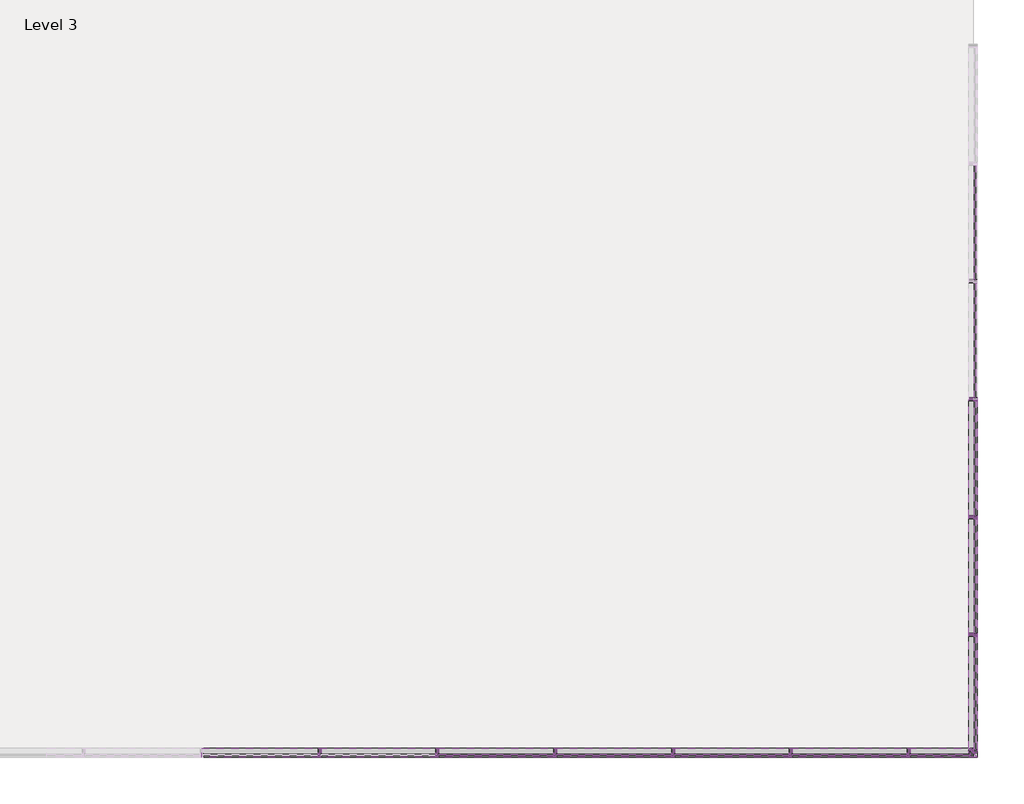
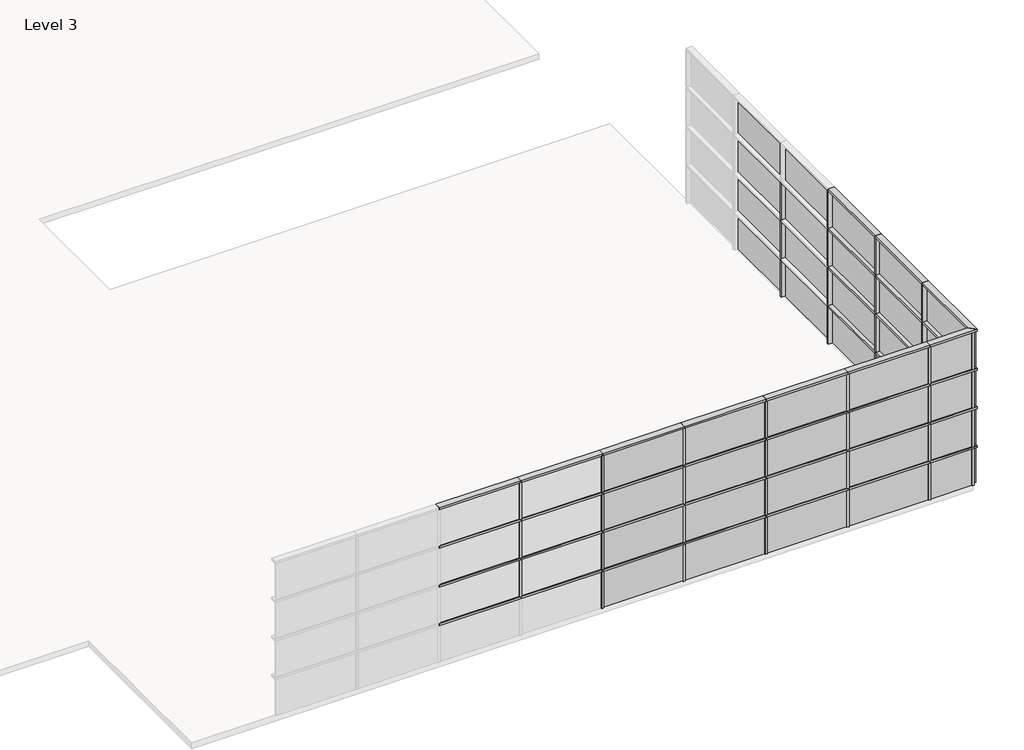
# One storey, part 3 of 6: 86 members, 40 plates.
"""IFC4 building model written with IfcOpenShell, lengths in millimetres."""

from ifc_helpers import new_model, si_unit, origin, place, context, project, spatial, transform, mapped, element, save
from components import rectangular_mullion_50_x_150mm_a053b0ca, rectangular_mullion_50_x_150mm_3a148f0f, rectangular_mullion_50_x_150mm_12a430f9, rectangular_mullion_50_x_150mm_947845bb, rectangular_mullion_50_x_150mm_f68fa77e, system_panel_glazed_751a585c, system_panel_glazed_08de6f5f, system_panel_glazed_3987acf4

model = new_model("IFC4")

# Units and contexts
model_context = context("Model", 3, world=origin())
ifc_project = project(units=[si_unit("LENGTHUNIT", "METRE", prefix="MILLI")], contexts=[model_context])

# Site, building, storey
site = spatial("IfcSite", under=ifc_project)
building = spatial("IfcBuilding", under=site)
storey = spatial("IfcBuildingStorey", under=building, Name="Level 3", Elevation=8000.0)

# Members
placement = place(None, origin())
rectangular_mullion_50_x_150mm_shape = rectangular_mullion_50_x_150mm_a053b0ca(model_context)
element("IfcMember", 1, ObjectType="Rectangular Mullion : 50 x 150mm", at=placement, inside=storey, context=model_context, shape_type="MappedRepresentation", body=[
    mapped(rectangular_mullion_50_x_150mm_shape, transform((2412.826594, -21988.7417365, 9025.0), x_axis=(1.0, 0.0, 0.0), y_axis=(0.0, -1.0, 0.0), z_axis=(0.0, 0.0, -0.9999999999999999))),
])
element("IfcMember", 2, ObjectType="Rectangular Mullion : 50 x 150mm", at=placement, inside=storey, context=model_context, shape_type="MappedRepresentation", body=[
    mapped(rectangular_mullion_50_x_150mm_shape, transform((2412.826594, -21988.7417365, 10025.0), x_axis=(1.0, 0.0, 0.0), y_axis=(0.0, -1.0, 0.0), z_axis=(0.0, 0.0, -1.0))),
])
element("IfcMember", 3, ObjectType="Rectangular Mullion : 50 x 150mm", at=placement, inside=storey, context=model_context, shape_type="MappedRepresentation", body=[
    mapped(rectangular_mullion_50_x_150mm_shape, transform((2412.826594, -21988.7417365, 11025.0), x_axis=(1.0, 0.0, 0.0), y_axis=(0.0, -1.0, 0.0), z_axis=(0.0, 0.0, -1.0))),
])
element("IfcMember", 4, ObjectType="Rectangular Mullion : 50 x 150mm", at=placement, inside=storey, context=model_context, shape_type="MappedRepresentation", body=[
    mapped(rectangular_mullion_50_x_150mm_shape, transform((4412.826594, -21988.7417365, 8025.0), x_axis=(1.0, 0.0, 0.0), y_axis=(0.0, -1.0, 0.0), z_axis=(0.0, 0.0, -1.0))),
])
element("IfcMember", 5, ObjectType="Rectangular Mullion : 50 x 150mm", at=placement, inside=storey, context=model_context, shape_type="MappedRepresentation", body=[
    mapped(rectangular_mullion_50_x_150mm_shape, transform((4412.826594, -21988.7417365, 9025.0), x_axis=(1.0, 0.0, 0.0), y_axis=(0.0, -1.0, 0.0), z_axis=(0.0, 0.0, -0.9999999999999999))),
])
element("IfcMember", 6, ObjectType="Rectangular Mullion : 50 x 150mm", at=placement, inside=storey, context=model_context, shape_type="MappedRepresentation", body=[
    mapped(rectangular_mullion_50_x_150mm_shape, transform((4412.826594, -21988.7417365, 10025.0), x_axis=(1.0, 0.0, 0.0), y_axis=(0.0, -1.0, 0.0), z_axis=(0.0, 0.0, -0.9999999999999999))),
])
element("IfcMember", 7, ObjectType="Rectangular Mullion : 50 x 150mm", at=placement, inside=storey, context=model_context, shape_type="MappedRepresentation", body=[
    mapped(rectangular_mullion_50_x_150mm_shape, transform((4412.826594, -21988.7417365, 11025.0), x_axis=(1.0, 0.0, 0.0), y_axis=(0.0, -1.0, 0.0), z_axis=(0.0, 0.0, -1.0))),
])
element("IfcMember", 8, ObjectType="Rectangular Mullion : 50 x 150mm", at=placement, inside=storey, context=model_context, shape_type="MappedRepresentation", body=[
    mapped(rectangular_mullion_50_x_150mm_shape, transform((6412.826594, -21988.7417365, 8025.0), x_axis=(1.0, 0.0, 0.0), y_axis=(0.0, -1.0, 0.0), z_axis=(0.0, 0.0, -1.0))),
])
element("IfcMember", 9, ObjectType="Rectangular Mullion : 50 x 150mm", at=placement, inside=storey, context=model_context, shape_type="MappedRepresentation", body=[
    mapped(rectangular_mullion_50_x_150mm_shape, transform((6412.826594, -21988.7417365, 9025.0), x_axis=(1.0, 0.0, 0.0), y_axis=(0.0, -1.0, 0.0), z_axis=(0.0, 0.0, -0.9999999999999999))),
])
element("IfcMember", 10, ObjectType="Rectangular Mullion : 50 x 150mm", at=placement, inside=storey, context=model_context, shape_type="MappedRepresentation", body=[
    mapped(rectangular_mullion_50_x_150mm_shape, transform((6412.826594, -21988.7417365, 10025.0), x_axis=(1.0, 0.0, 0.0), y_axis=(0.0, -1.0, 0.0), z_axis=(0.0, 0.0, -0.9999999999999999))),
])
element("IfcMember", 11, ObjectType="Rectangular Mullion : 50 x 150mm", at=placement, inside=storey, context=model_context, shape_type="MappedRepresentation", body=[
    mapped(rectangular_mullion_50_x_150mm_shape, transform((6412.826594, -21988.7417365, 11025.0), x_axis=(1.0, 0.0, 0.0), y_axis=(0.0, -1.0, 0.0), z_axis=(0.0, 0.0, -1.0))),
])
element("IfcMember", 12, ObjectType="Rectangular Mullion : 50 x 150mm", at=placement, inside=storey, context=model_context, shape_type="MappedRepresentation", body=[
    mapped(rectangular_mullion_50_x_150mm_shape, transform((8412.826594, -21988.7417365, 8025.0), x_axis=(1.0, 0.0, 0.0), y_axis=(0.0, -1.0, 0.0), z_axis=(0.0, 0.0, -1.0))),
])
element("IfcMember", 13, ObjectType="Rectangular Mullion : 50 x 150mm", at=placement, inside=storey, context=model_context, shape_type="MappedRepresentation", body=[
    mapped(rectangular_mullion_50_x_150mm_shape, transform((8412.826594, -21988.7417365, 9025.0), x_axis=(1.0, 0.0, 0.0), y_axis=(0.0, -1.0, 0.0), z_axis=(0.0, 0.0, -0.9999999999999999))),
])
element("IfcMember", 14, ObjectType="Rectangular Mullion : 50 x 150mm", at=placement, inside=storey, context=model_context, shape_type="MappedRepresentation", body=[
    mapped(rectangular_mullion_50_x_150mm_shape, transform((8412.826594, -21988.7417365, 10025.0), x_axis=(1.0, 0.0, 0.0), y_axis=(0.0, -1.0, 0.0), z_axis=(0.0, 0.0, -0.9999999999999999))),
])
element("IfcMember", 15, ObjectType="Rectangular Mullion : 50 x 150mm", at=placement, inside=storey, context=model_context, shape_type="MappedRepresentation", body=[
    mapped(rectangular_mullion_50_x_150mm_shape, transform((8412.826594, -21988.7417365, 11025.0), x_axis=(1.0, 0.0, 0.0), y_axis=(0.0, -1.0, 0.0), z_axis=(0.0, 0.0, -1.0))),
])
element("IfcMember", 16, ObjectType="Rectangular Mullion : 50 x 150mm", at=placement, inside=storey, context=model_context, shape_type="MappedRepresentation", body=[
    mapped(rectangular_mullion_50_x_150mm_shape, transform((10412.826594, -21988.7417365, 8025.0), x_axis=(1.0, 0.0, 0.0), y_axis=(0.0, -1.0, 0.0), z_axis=(0.0, 0.0, -1.0))),
])
element("IfcMember", 17, ObjectType="Rectangular Mullion : 50 x 150mm", at=placement, inside=storey, context=model_context, shape_type="MappedRepresentation", body=[
    mapped(rectangular_mullion_50_x_150mm_shape, transform((10412.826594, -21988.7417365, 9025.0), x_axis=(1.0, 0.0, 0.0), y_axis=(0.0, -1.0, 0.0), z_axis=(0.0, 0.0, -0.9999999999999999))),
])
element("IfcMember", 18, ObjectType="Rectangular Mullion : 50 x 150mm", at=placement, inside=storey, context=model_context, shape_type="MappedRepresentation", body=[
    mapped(rectangular_mullion_50_x_150mm_shape, transform((10412.826594, -21988.7417365, 10025.0), x_axis=(1.0, 0.0, 0.0), y_axis=(0.0, -1.0, 0.0), z_axis=(0.0, 0.0, -1.0))),
])
element("IfcMember", 19, ObjectType="Rectangular Mullion : 50 x 150mm", at=placement, inside=storey, context=model_context, shape_type="MappedRepresentation", body=[
    mapped(rectangular_mullion_50_x_150mm_shape, transform((10412.826594, -21988.7417365, 11025.0), x_axis=(1.0, 0.0, 0.0), y_axis=(0.0, -1.0, 0.0), z_axis=(0.0, 0.0, -1.0))),
])
element("IfcMember", 20, ObjectType="Rectangular Mullion : 50 x 150mm", at=placement, inside=storey, context=model_context, shape_type="MappedRepresentation", body=[
    mapped(rectangular_mullion_50_x_150mm_shape, transform((12412.826594, -21988.7417365, 8025.0), x_axis=(1.0, 0.0, 0.0), y_axis=(0.0, -1.0, 0.0), z_axis=(0.0, 0.0, -1.0))),
])
element("IfcMember", 21, ObjectType="Rectangular Mullion : 50 x 150mm", at=placement, inside=storey, context=model_context, shape_type="MappedRepresentation", body=[
    mapped(rectangular_mullion_50_x_150mm_shape, transform((12412.826594, -21988.7417365, 9025.0), x_axis=(1.0, 0.0, 0.0), y_axis=(0.0, -1.0, 0.0), z_axis=(0.0, 0.0, -0.9999999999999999))),
])
element("IfcMember", 22, ObjectType="Rectangular Mullion : 50 x 150mm", at=placement, inside=storey, context=model_context, shape_type="MappedRepresentation", body=[
    mapped(rectangular_mullion_50_x_150mm_shape, transform((12412.826594, -21988.7417365, 10025.0), x_axis=(1.0, 0.0, 0.0), y_axis=(0.0, -1.0, 0.0), z_axis=(0.0, 0.0, -1.0))),
])
element("IfcMember", 23, ObjectType="Rectangular Mullion : 50 x 150mm", at=placement, inside=storey, context=model_context, shape_type="MappedRepresentation", body=[
    mapped(rectangular_mullion_50_x_150mm_shape, transform((12412.826594, -21988.7417365, 11025.0), x_axis=(1.0, 0.0, 0.0), y_axis=(0.0, -1.0, 0.0), z_axis=(0.0, 0.0, -1.0))),
])
element("IfcMember", 24, ObjectType="Rectangular Mullion : 50 x 150mm", at=placement, inside=storey, context=model_context, shape_type="MappedRepresentation", body=[
    mapped(rectangular_mullion_50_x_150mm_shape, transform((13503.2660975, -13988.7417365, 8025.0), x_axis=(0.0, 1.0, 0.0), y_axis=(1.0, 0.0, 0.0), z_axis=(0.0, 0.0, -0.9999999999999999))),
])
element("IfcMember", 25, ObjectType="Rectangular Mullion : 50 x 150mm", at=placement, inside=storey, context=model_context, shape_type="MappedRepresentation", body=[
    mapped(rectangular_mullion_50_x_150mm_shape, transform((13503.2660975, -13988.7417365, 9025.0), x_axis=(0.0, 1.0, 0.0), y_axis=(1.0, 0.0, 0.0), z_axis=(0.0, 0.0, -1.0))),
])
element("IfcMember", 26, ObjectType="Rectangular Mullion : 50 x 150mm", at=placement, inside=storey, context=model_context, shape_type="MappedRepresentation", body=[
    mapped(rectangular_mullion_50_x_150mm_shape, transform((13503.2660975, -13988.7417365, 10025.0), x_axis=(0.0, 1.0, 0.0), y_axis=(1.0, 0.0, 0.0), z_axis=(0.0, 0.0, -1.0))),
])
element("IfcMember", 27, ObjectType="Rectangular Mullion : 50 x 150mm", at=placement, inside=storey, context=model_context, shape_type="MappedRepresentation", body=[
    mapped(rectangular_mullion_50_x_150mm_shape, transform((13503.2660975, -17988.7417365, 8025.0), x_axis=(0.0, 1.0, 0.0), y_axis=(1.0, 0.0, 0.0), z_axis=(0.0, 0.0, -1.0))),
])
element("IfcMember", 28, ObjectType="Rectangular Mullion : 50 x 150mm", at=placement, inside=storey, context=model_context, shape_type="MappedRepresentation", body=[
    mapped(rectangular_mullion_50_x_150mm_shape, transform((13503.2660975, -17988.7417365, 9025.0), x_axis=(0.0, 1.0, 0.0), y_axis=(1.0, 0.0, 0.0), z_axis=(0.0, 0.0, -1.0))),
])
element("IfcMember", 29, ObjectType="Rectangular Mullion : 50 x 150mm", at=placement, inside=storey, context=model_context, shape_type="MappedRepresentation", body=[
    mapped(rectangular_mullion_50_x_150mm_shape, transform((13503.2660975, -17988.7417365, 10025.0), x_axis=(0.0, 1.0, 0.0), y_axis=(1.0, 0.0, 0.0), z_axis=(0.0, 0.0, -1.0))),
])
element("IfcMember", 30, ObjectType="Rectangular Mullion : 50 x 150mm", at=placement, inside=storey, context=model_context, shape_type="MappedRepresentation", body=[
    mapped(rectangular_mullion_50_x_150mm_shape, transform((13503.2660975, -17988.7417365, 11025.0), x_axis=(0.0, 1.0, 0.0), y_axis=(1.0, 0.0, 0.0), z_axis=(0.0, 0.0, -0.9999999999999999))),
])
element("IfcMember", 31, ObjectType="Rectangular Mullion : 50 x 150mm", at=placement, inside=storey, context=model_context, shape_type="MappedRepresentation", body=[
    mapped(rectangular_mullion_50_x_150mm_shape, transform((13503.2660975, -15988.7417365, 8025.0), x_axis=(0.0, 1.0, 0.0), y_axis=(1.0, 0.0, 0.0), z_axis=(0.0, 0.0, -0.9999999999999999))),
])
element("IfcMember", 32, ObjectType="Rectangular Mullion : 50 x 150mm", at=placement, inside=storey, context=model_context, shape_type="MappedRepresentation", body=[
    mapped(rectangular_mullion_50_x_150mm_shape, transform((13503.2660975, -15988.7417365, 9025.0), x_axis=(0.0, 1.0, 0.0), y_axis=(1.0, 0.0, 0.0), z_axis=(0.0, 0.0, -1.0))),
])
element("IfcMember", 33, ObjectType="Rectangular Mullion : 50 x 150mm", at=placement, inside=storey, context=model_context, shape_type="MappedRepresentation", body=[
    mapped(rectangular_mullion_50_x_150mm_shape, transform((13503.2660975, -15988.7417365, 10025.0), x_axis=(0.0, 1.0, 0.0), y_axis=(1.0, 0.0, 0.0), z_axis=(0.0, 0.0, -1.0))),
])
element("IfcMember", 34, ObjectType="Rectangular Mullion : 50 x 150mm", at=placement, inside=storey, context=model_context, shape_type="MappedRepresentation", body=[
    mapped(rectangular_mullion_50_x_150mm_shape, transform((13503.2660975, -15988.7417365, 11025.0), x_axis=(0.0, 1.0, 0.0), y_axis=(1.0, 0.0, 0.0), z_axis=(0.0, 0.0, -0.9999999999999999))),
])
element("IfcMember", 35, ObjectType="Rectangular Mullion : 50 x 150mm", at=placement, inside=storey, context=model_context, shape_type="MappedRepresentation", body=[
    mapped(rectangular_mullion_50_x_150mm_shape, transform((13503.2660975, -19988.7417365, 8025.0), x_axis=(0.0, 1.0, 0.0), y_axis=(1.0, 0.0, 0.0), z_axis=(0.0, 0.0, -1.0))),
])
element("IfcMember", 36, ObjectType="Rectangular Mullion : 50 x 150mm", at=placement, inside=storey, context=model_context, shape_type="MappedRepresentation", body=[
    mapped(rectangular_mullion_50_x_150mm_shape, transform((13503.2660975, -19988.7417365, 9025.0), x_axis=(0.0, 1.0, 0.0), y_axis=(1.0, 0.0, 0.0), z_axis=(0.0, 0.0, -1.0))),
])
element("IfcMember", 37, ObjectType="Rectangular Mullion : 50 x 150mm", at=placement, inside=storey, context=model_context, shape_type="MappedRepresentation", body=[
    mapped(rectangular_mullion_50_x_150mm_shape, transform((13503.2660975, -19988.7417365, 10025.0), x_axis=(0.0, 1.0, 0.0), y_axis=(1.0, 0.0, 0.0), z_axis=(0.0, 0.0, -1.0))),
])
element("IfcMember", 38, ObjectType="Rectangular Mullion : 50 x 150mm", at=placement, inside=storey, context=model_context, shape_type="MappedRepresentation", body=[
    mapped(rectangular_mullion_50_x_150mm_shape, transform((13503.2660975, -19988.7417365, 11025.0), x_axis=(0.0, 1.0, 0.0), y_axis=(1.0, 0.0, 0.0), z_axis=(0.0, 0.0, -1.0))),
])
rectangular_mullion_50_x_150mm_2_shape = rectangular_mullion_50_x_150mm_3a148f0f(model_context)
element("IfcMember", 39, ObjectType="Rectangular Mullion : 50 x 150mm", at=placement, inside=storey, context=model_context, shape_type="MappedRepresentation", body=[
    mapped(rectangular_mullion_50_x_150mm_2_shape, transform((2412.826594, -21988.7417365, 9000.0), x_axis=(0.0, 0.0, 1.0), y_axis=(0.0, -1.0, 0.0), z_axis=(1.0, 0.0, 0.0))),
])
element("IfcMember", 40, ObjectType="Rectangular Mullion : 50 x 150mm", at=placement, inside=storey, context=model_context, shape_type="MappedRepresentation", body=[
    mapped(rectangular_mullion_50_x_150mm_2_shape, transform((4412.826594, -21988.7417365, 9000.0), x_axis=(0.0, 0.0, 1.0), y_axis=(0.0, -1.0, 0.0), z_axis=(1.0, 0.0, 0.0))),
])
element("IfcMember", 41, ObjectType="Rectangular Mullion : 50 x 150mm", at=placement, inside=storey, context=model_context, shape_type="MappedRepresentation", body=[
    mapped(rectangular_mullion_50_x_150mm_2_shape, transform((6412.826594, -21988.7417365, 9000.0), x_axis=(0.0, 0.0, 1.0), y_axis=(0.0, -1.0, 0.0), z_axis=(1.0, 0.0, 0.0))),
])
element("IfcMember", 42, ObjectType="Rectangular Mullion : 50 x 150mm", at=placement, inside=storey, context=model_context, shape_type="MappedRepresentation", body=[
    mapped(rectangular_mullion_50_x_150mm_2_shape, transform((8412.826594, -21988.7417365, 9000.0), x_axis=(0.0, 0.0, 1.0), y_axis=(0.0, -1.0, 0.0), z_axis=(1.0, 0.0, 0.0))),
])
element("IfcMember", 43, ObjectType="Rectangular Mullion : 50 x 150mm", at=placement, inside=storey, context=model_context, shape_type="MappedRepresentation", body=[
    mapped(rectangular_mullion_50_x_150mm_2_shape, transform((10412.826594, -21988.7417365, 9000.0), x_axis=(0.0, 0.0, 1.0), y_axis=(0.0, -1.0, 0.0), z_axis=(1.0, 0.0, 0.0))),
])
element("IfcMember", 44, ObjectType="Rectangular Mullion : 50 x 150mm", at=placement, inside=storey, context=model_context, shape_type="MappedRepresentation", body=[
    mapped(rectangular_mullion_50_x_150mm_2_shape, transform((12412.826594, -21988.7417365, 9000.0), x_axis=(0.0, 0.0, 1.0), y_axis=(0.0, -1.0, 0.0), z_axis=(1.0, 0.0, 0.0))),
])
element("IfcMember", 45, ObjectType="Rectangular Mullion : 50 x 150mm", at=placement, inside=storey, context=model_context, shape_type="MappedRepresentation", body=[
    mapped(rectangular_mullion_50_x_150mm_2_shape, transform((2412.826594, -21988.7417365, 10000.0), x_axis=(0.0, 0.0, 1.0), y_axis=(0.0, -1.0, 0.0), z_axis=(1.0, 0.0, 0.0))),
])
element("IfcMember", 46, ObjectType="Rectangular Mullion : 50 x 150mm", at=placement, inside=storey, context=model_context, shape_type="MappedRepresentation", body=[
    mapped(rectangular_mullion_50_x_150mm_2_shape, transform((4412.826594, -21988.7417365, 10000.0), x_axis=(0.0, 0.0, 1.0), y_axis=(0.0, -1.0, 0.0), z_axis=(0.9999999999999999, 0.0, 0.0))),
])
element("IfcMember", 47, ObjectType="Rectangular Mullion : 50 x 150mm", at=placement, inside=storey, context=model_context, shape_type="MappedRepresentation", body=[
    mapped(rectangular_mullion_50_x_150mm_2_shape, transform((6412.826594, -21988.7417365, 10000.0), x_axis=(0.0, 0.0, 1.0), y_axis=(0.0, -1.0, 0.0), z_axis=(1.0, 0.0, 0.0))),
])
element("IfcMember", 48, ObjectType="Rectangular Mullion : 50 x 150mm", at=placement, inside=storey, context=model_context, shape_type="MappedRepresentation", body=[
    mapped(rectangular_mullion_50_x_150mm_2_shape, transform((8412.826594, -21988.7417365, 10000.0), x_axis=(0.0, 0.0, 1.0), y_axis=(0.0, -1.0, 0.0), z_axis=(1.0, 0.0, 0.0))),
])
element("IfcMember", 49, ObjectType="Rectangular Mullion : 50 x 150mm", at=placement, inside=storey, context=model_context, shape_type="MappedRepresentation", body=[
    mapped(rectangular_mullion_50_x_150mm_2_shape, transform((10412.826594, -21988.7417365, 10000.0), x_axis=(0.0, 0.0, 1.0), y_axis=(0.0, -1.0, 0.0), z_axis=(1.0, 0.0, 0.0))),
])
element("IfcMember", 50, ObjectType="Rectangular Mullion : 50 x 150mm", at=placement, inside=storey, context=model_context, shape_type="MappedRepresentation", body=[
    mapped(rectangular_mullion_50_x_150mm_2_shape, transform((12412.826594, -21988.7417365, 10000.0), x_axis=(0.0, 0.0, 1.0), y_axis=(0.0, -1.0, 0.0), z_axis=(1.0, 0.0, 0.0))),
])
element("IfcMember", 51, ObjectType="Rectangular Mullion : 50 x 150mm", at=placement, inside=storey, context=model_context, shape_type="MappedRepresentation", body=[
    mapped(rectangular_mullion_50_x_150mm_2_shape, transform((2412.826594, -21988.7417365, 11000.0), x_axis=(0.0, 0.0, 1.0), y_axis=(0.0, -1.0, 0.0), z_axis=(1.0, 0.0, 0.0))),
])
element("IfcMember", 52, ObjectType="Rectangular Mullion : 50 x 150mm", at=placement, inside=storey, context=model_context, shape_type="MappedRepresentation", body=[
    mapped(rectangular_mullion_50_x_150mm_2_shape, transform((4412.826594, -21988.7417365, 11000.0), x_axis=(0.0, 0.0, 1.0), y_axis=(0.0, -1.0, 0.0), z_axis=(0.9999999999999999, 0.0, 0.0))),
])
element("IfcMember", 53, ObjectType="Rectangular Mullion : 50 x 150mm", at=placement, inside=storey, context=model_context, shape_type="MappedRepresentation", body=[
    mapped(rectangular_mullion_50_x_150mm_2_shape, transform((6412.826594, -21988.7417365, 11000.0), x_axis=(0.0, 0.0, 1.0), y_axis=(0.0, -1.0, 0.0), z_axis=(1.0, 0.0, 0.0))),
])
element("IfcMember", 54, ObjectType="Rectangular Mullion : 50 x 150mm", at=placement, inside=storey, context=model_context, shape_type="MappedRepresentation", body=[
    mapped(rectangular_mullion_50_x_150mm_2_shape, transform((8412.826594, -21988.7417365, 11000.0), x_axis=(0.0, 0.0, 1.0), y_axis=(0.0, -1.0, 0.0), z_axis=(1.0, 0.0, 0.0))),
])
element("IfcMember", 55, ObjectType="Rectangular Mullion : 50 x 150mm", at=placement, inside=storey, context=model_context, shape_type="MappedRepresentation", body=[
    mapped(rectangular_mullion_50_x_150mm_2_shape, transform((10412.826594, -21988.7417365, 11000.0), x_axis=(0.0, 0.0, 1.0), y_axis=(0.0, -1.0, 0.0), z_axis=(1.0, 0.0, 0.0))),
])
element("IfcMember", 56, ObjectType="Rectangular Mullion : 50 x 150mm", at=placement, inside=storey, context=model_context, shape_type="MappedRepresentation", body=[
    mapped(rectangular_mullion_50_x_150mm_2_shape, transform((12412.826594, -21988.7417365, 11000.0), x_axis=(0.0, 0.0, 1.0), y_axis=(0.0, -1.0, 0.0), z_axis=(1.0, 0.0, 0.0))),
])
element("IfcMember", 57, ObjectType="Rectangular Mullion : 50 x 150mm", at=placement, inside=storey, context=model_context, shape_type="MappedRepresentation", body=[
    mapped(rectangular_mullion_50_x_150mm_2_shape, transform((2412.826594, -21988.7417365, 12000.0), x_axis=(0.0, 0.0, 1.0), y_axis=(0.0, -1.0, 0.0), z_axis=(1.0, 0.0, 0.0))),
])
element("IfcMember", 58, ObjectType="Rectangular Mullion : 50 x 150mm", at=placement, inside=storey, context=model_context, shape_type="MappedRepresentation", body=[
    mapped(rectangular_mullion_50_x_150mm_2_shape, transform((4412.826594, -21988.7417365, 12000.0), x_axis=(0.0, 0.0, 1.0), y_axis=(0.0, -1.0, 0.0), z_axis=(0.9999999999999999, 0.0, 0.0))),
])
element("IfcMember", 59, ObjectType="Rectangular Mullion : 50 x 150mm", at=placement, inside=storey, context=model_context, shape_type="MappedRepresentation", body=[
    mapped(rectangular_mullion_50_x_150mm_2_shape, transform((6412.826594, -21988.7417365, 12000.0), x_axis=(0.0, 0.0, 1.0), y_axis=(0.0, -1.0, 0.0), z_axis=(1.0, 0.0, 0.0))),
])
element("IfcMember", 60, ObjectType="Rectangular Mullion : 50 x 150mm", at=placement, inside=storey, context=model_context, shape_type="MappedRepresentation", body=[
    mapped(rectangular_mullion_50_x_150mm_2_shape, transform((8412.826594, -21988.7417365, 12000.0), x_axis=(0.0, 0.0, 1.0), y_axis=(0.0, -1.0, 0.0), z_axis=(1.0, 0.0, 0.0))),
])
element("IfcMember", 61, ObjectType="Rectangular Mullion : 50 x 150mm", at=placement, inside=storey, context=model_context, shape_type="MappedRepresentation", body=[
    mapped(rectangular_mullion_50_x_150mm_2_shape, transform((10412.826594, -21988.7417365, 12000.0), x_axis=(0.0, 0.0, 1.0), y_axis=(0.0, -1.0, 0.0), z_axis=(1.0, 0.0, 0.0))),
])
element("IfcMember", 62, ObjectType="Rectangular Mullion : 50 x 150mm", at=placement, inside=storey, context=model_context, shape_type="MappedRepresentation", body=[
    mapped(rectangular_mullion_50_x_150mm_2_shape, transform((12412.826594, -21988.7417365, 12000.0), x_axis=(0.0, 0.0, 1.0), y_axis=(0.0, -1.0, 0.0), z_axis=(1.0, 0.0, 0.0))),
])
element("IfcMember", 63, ObjectType="Rectangular Mullion : 50 x 150mm", at=placement, inside=storey, context=model_context, shape_type="MappedRepresentation", body=[
    mapped(rectangular_mullion_50_x_150mm_2_shape, transform((13503.2660975, -17988.7417365, 9000.0), x_axis=(0.0, 0.0, 1.0), y_axis=(1.0, 0.0, 0.0), z_axis=(0.0, 1.0, 0.0))),
])
element("IfcMember", 64, ObjectType="Rectangular Mullion : 50 x 150mm", at=placement, inside=storey, context=model_context, shape_type="MappedRepresentation", body=[
    mapped(rectangular_mullion_50_x_150mm_2_shape, transform((13503.2660975, -15988.7417365, 9000.0), x_axis=(0.0, 0.0, 1.0), y_axis=(1.0, 0.0, 0.0), z_axis=(0.0, 1.0, 0.0))),
])
element("IfcMember", 65, ObjectType="Rectangular Mullion : 50 x 150mm", at=placement, inside=storey, context=model_context, shape_type="MappedRepresentation", body=[
    mapped(rectangular_mullion_50_x_150mm_2_shape, transform((13503.2660975, -17988.7417365, 10000.0), x_axis=(0.0, 0.0, 1.0), y_axis=(1.0, 0.0, 0.0), z_axis=(0.0, 1.0, 0.0))),
])
element("IfcMember", 66, ObjectType="Rectangular Mullion : 50 x 150mm", at=placement, inside=storey, context=model_context, shape_type="MappedRepresentation", body=[
    mapped(rectangular_mullion_50_x_150mm_2_shape, transform((13503.2660975, -15988.7417365, 10000.0), x_axis=(0.0, 0.0, 1.0), y_axis=(1.0, 0.0, 0.0), z_axis=(0.0, 1.0, 0.0))),
])
element("IfcMember", 67, ObjectType="Rectangular Mullion : 50 x 150mm", at=placement, inside=storey, context=model_context, shape_type="MappedRepresentation", body=[
    mapped(rectangular_mullion_50_x_150mm_2_shape, transform((13503.2660975, -17988.7417365, 11000.0), x_axis=(0.0, 0.0, 1.0), y_axis=(1.0, 0.0, 0.0), z_axis=(0.0, 1.0, 0.0))),
])
element("IfcMember", 68, ObjectType="Rectangular Mullion : 50 x 150mm", at=placement, inside=storey, context=model_context, shape_type="MappedRepresentation", body=[
    mapped(rectangular_mullion_50_x_150mm_2_shape, transform((13503.2660975, -15988.7417365, 11000.0), x_axis=(0.0, 0.0, 1.0), y_axis=(1.0, 0.0, 0.0), z_axis=(0.0, 1.0, 0.0))),
])
element("IfcMember", 69, ObjectType="Rectangular Mullion : 50 x 150mm", at=placement, inside=storey, context=model_context, shape_type="MappedRepresentation", body=[
    mapped(rectangular_mullion_50_x_150mm_2_shape, transform((13503.2660975, -17988.7417365, 12000.0), x_axis=(0.0, 0.0, 1.0), y_axis=(1.0, 0.0, 0.0), z_axis=(0.0, 1.0, 0.0))),
])
element("IfcMember", 70, ObjectType="Rectangular Mullion : 50 x 150mm", at=placement, inside=storey, context=model_context, shape_type="MappedRepresentation", body=[
    mapped(rectangular_mullion_50_x_150mm_2_shape, transform((13503.2660975, -15988.7417365, 12000.0), x_axis=(0.0, 0.0, 1.0), y_axis=(1.0, 0.0, 0.0), z_axis=(0.0, 1.0, 0.0))),
])
rectangular_mullion_50_x_150mm_3_shape = rectangular_mullion_50_x_150mm_12a430f9(model_context)
element("IfcMember", 71, ObjectType="Rectangular Mullion : 50 x 150mm", at=placement, inside=storey, context=model_context, shape_type="MappedRepresentation", body=[
    mapped(rectangular_mullion_50_x_150mm_3_shape, transform((13503.2660975, -21988.7417365, 8975.0), x_axis=(0.0, -1.0, 0.0), y_axis=(1.0, 0.0, 0.0), z_axis=(0.0, 0.0, 1.0))),
])
element("IfcMember", 72, ObjectType="Rectangular Mullion : 50 x 150mm", at=placement, inside=storey, context=model_context, shape_type="MappedRepresentation", body=[
    mapped(rectangular_mullion_50_x_150mm_3_shape, transform((13503.2660975, -21988.7417365, 9975.0), x_axis=(0.0, -1.0, 0.0), y_axis=(1.0, 0.0, 0.0), z_axis=(0.0, 0.0, 1.0))),
])
element("IfcMember", 73, ObjectType="Rectangular Mullion : 50 x 150mm", at=placement, inside=storey, context=model_context, shape_type="MappedRepresentation", body=[
    mapped(rectangular_mullion_50_x_150mm_3_shape, transform((13503.2660975, -21988.7417365, 10975.0), x_axis=(0.0, -1.0, 0.0), y_axis=(1.0, 0.0, 0.0), z_axis=(0.0, 0.0, 1.0))),
])
element("IfcMember", 74, ObjectType="Rectangular Mullion : 50 x 150mm", at=placement, inside=storey, context=model_context, shape_type="MappedRepresentation", body=[
    mapped(rectangular_mullion_50_x_150mm_3_shape, transform((13503.2660975, -21988.7417365, 11975.0), x_axis=(0.0, -1.0, 0.0), y_axis=(1.0, 0.0, 0.0), z_axis=(0.0, 0.0, 1.0))),
])
element("IfcMember", 75, ObjectType="Rectangular Mullion : 50 x 150mm", at=placement, inside=storey, context=model_context, shape_type="MappedRepresentation", body=[
    mapped(rectangular_mullion_50_x_150mm_3_shape, transform((13503.2660975, -21988.7417365, 8025.0), x_axis=(1.0, 0.0, 0.0), y_axis=(0.0, -1.0, 0.0), z_axis=(0.0, 0.0, -1.0))),
])
element("IfcMember", 76, ObjectType="Rectangular Mullion : 50 x 150mm", at=placement, inside=storey, context=model_context, shape_type="MappedRepresentation", body=[
    mapped(rectangular_mullion_50_x_150mm_3_shape, transform((13503.2660975, -21988.7417365, 9025.0), x_axis=(1.0, 0.0, 0.0), y_axis=(0.0, -1.0, 0.0), z_axis=(0.0, 0.0, -1.0))),
])
element("IfcMember", 77, ObjectType="Rectangular Mullion : 50 x 150mm", at=placement, inside=storey, context=model_context, shape_type="MappedRepresentation", body=[
    mapped(rectangular_mullion_50_x_150mm_3_shape, transform((13503.2660975, -21988.7417365, 10025.0), x_axis=(1.0, 0.0, 0.0), y_axis=(0.0, -1.0, 0.0), z_axis=(0.0, 0.0, -1.0))),
])
element("IfcMember", 78, ObjectType="Rectangular Mullion : 50 x 150mm", at=placement, inside=storey, context=model_context, shape_type="MappedRepresentation", body=[
    mapped(rectangular_mullion_50_x_150mm_3_shape, transform((13503.2660975, -21988.7417365, 11025.0), x_axis=(1.0, 0.0, 0.0), y_axis=(0.0, -1.0, 0.0), z_axis=(0.0, 0.0, -1.0))),
])
rectangular_mullion_50_x_150mm_4_shape = rectangular_mullion_50_x_150mm_947845bb(model_context)
element("IfcMember", 79, ObjectType="Rectangular Mullion : 50 x 150mm", at=placement, inside=storey, context=model_context, shape_type="MappedRepresentation", body=[
    mapped(rectangular_mullion_50_x_150mm_4_shape, transform((13503.2660975, -19988.7417365, 9000.0), x_axis=(0.0, 0.0, 1.0), y_axis=(1.0, 0.0, 0.0), z_axis=(0.0, 1.0, 0.0))),
])
element("IfcMember", 80, ObjectType="Rectangular Mullion : 50 x 150mm", at=placement, inside=storey, context=model_context, shape_type="MappedRepresentation", body=[
    mapped(rectangular_mullion_50_x_150mm_4_shape, transform((13503.2660975, -19988.7417365, 10000.0), x_axis=(0.0, 0.0, 1.0), y_axis=(1.0, 0.0, 0.0), z_axis=(0.0, 1.0, 0.0))),
])
element("IfcMember", 81, ObjectType="Rectangular Mullion : 50 x 150mm", at=placement, inside=storey, context=model_context, shape_type="MappedRepresentation", body=[
    mapped(rectangular_mullion_50_x_150mm_4_shape, transform((13503.2660975, -19988.7417365, 11000.0), x_axis=(0.0, 0.0, 1.0), y_axis=(1.0, 0.0, 0.0), z_axis=(0.0, 1.0, 0.0))),
])
element("IfcMember", 82, ObjectType="Rectangular Mullion : 50 x 150mm", at=placement, inside=storey, context=model_context, shape_type="MappedRepresentation", body=[
    mapped(rectangular_mullion_50_x_150mm_4_shape, transform((13503.2660975, -19988.7417365, 12000.0), x_axis=(0.0, 0.0, 1.0), y_axis=(1.0, 0.0, 0.0), z_axis=(0.0, 1.0, 0.0))),
])
rectangular_mullion_50_x_150mm_5_shape = rectangular_mullion_50_x_150mm_f68fa77e(model_context)
element("IfcMember", 83, ObjectType="Rectangular Mullion : 50 x 150mm", at=placement, inside=storey, context=model_context, shape_type="MappedRepresentation", body=[
    mapped(rectangular_mullion_50_x_150mm_5_shape, transform((13503.2660975, -21988.7417365, 9000.0), x_axis=(0.0, 0.0, 1.0), y_axis=(0.0, -1.0, 0.0), z_axis=(0.9999999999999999, 0.0, 0.0))),
])
element("IfcMember", 84, ObjectType="Rectangular Mullion : 50 x 150mm", at=placement, inside=storey, context=model_context, shape_type="MappedRepresentation", body=[
    mapped(rectangular_mullion_50_x_150mm_5_shape, transform((13503.2660975, -21988.7417365, 10000.0), x_axis=(0.0, 0.0, 1.0), y_axis=(0.0, -1.0, 0.0), z_axis=(0.9999999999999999, 0.0, 0.0))),
])
element("IfcMember", 85, ObjectType="Rectangular Mullion : 50 x 150mm", at=placement, inside=storey, context=model_context, shape_type="MappedRepresentation", body=[
    mapped(rectangular_mullion_50_x_150mm_5_shape, transform((13503.2660975, -21988.7417365, 11000.0), x_axis=(0.0, 0.0, 1.0), y_axis=(0.0, -1.0, 0.0), z_axis=(0.9999999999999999, 0.0, 0.0))),
])
element("IfcMember", 86, ObjectType="Rectangular Mullion : 50 x 150mm", at=placement, inside=storey, context=model_context, shape_type="MappedRepresentation", body=[
    mapped(rectangular_mullion_50_x_150mm_5_shape, transform((13503.2660975, -21988.7417365, 12000.0), x_axis=(0.0, 0.0, 1.0), y_axis=(0.0, -1.0, 0.0), z_axis=(0.9999999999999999, 0.0, 0.0))),
])

# Plates
system_panel_glazed_shape = system_panel_glazed_751a585c(model_context)
element("IfcPlate", 87, ObjectType="System Panel : Glazed", at=placement, inside=storey, context=model_context, shape_type="MappedRepresentation", body=[
    mapped(system_panel_glazed_shape, transform((13503.2660975, -21938.7417365, 8500.0), x_axis=(0.0, 0.0, 1.0), y_axis=(1.0, 0.0, 0.0), z_axis=(0.0, 1.0, 0.0))),
])
element("IfcPlate", 88, ObjectType="System Panel : Glazed", at=placement, inside=storey, context=model_context, shape_type="MappedRepresentation", body=[
    mapped(system_panel_glazed_shape, transform((13503.2660975, -21938.7417365, 9500.0), x_axis=(0.0, 0.0, 1.0), y_axis=(1.0, 0.0, 0.0), z_axis=(0.0, 1.0, 0.0))),
])
element("IfcPlate", 89, ObjectType="System Panel : Glazed", at=placement, inside=storey, context=model_context, shape_type="MappedRepresentation", body=[
    mapped(system_panel_glazed_shape, transform((13503.2660975, -21938.7417365, 10500.0), x_axis=(0.0, 0.0, 1.0), y_axis=(1.0, 0.0, 0.0), z_axis=(0.0, 1.0, 0.0))),
])
element("IfcPlate", 90, ObjectType="System Panel : Glazed", at=placement, inside=storey, context=model_context, shape_type="MappedRepresentation", body=[
    mapped(system_panel_glazed_shape, transform((13503.2660975, -21938.7417365, 11500.0), x_axis=(0.0, 0.0, 1.0), y_axis=(1.0, 0.0, 0.0), z_axis=(0.0, 1.0, 0.0))),
])
system_panel_glazed_2_shape = system_panel_glazed_08de6f5f(model_context)
element("IfcPlate", 91, ObjectType="System Panel : Glazed", at=placement, inside=storey, context=model_context, shape_type="MappedRepresentation", body=[
    mapped(system_panel_glazed_2_shape, transform((4437.826594, -21988.7417365, 8500.0), x_axis=(0.0, 0.0, 1.0), y_axis=(0.0, -1.0, 0.0), z_axis=(1.0, 0.0, 0.0))),
])
element("IfcPlate", 92, ObjectType="System Panel : Glazed", at=placement, inside=storey, context=model_context, shape_type="MappedRepresentation", body=[
    mapped(system_panel_glazed_2_shape, transform((4437.826594, -21988.7417365, 9500.0), x_axis=(0.0, 0.0, 1.0), y_axis=(0.0, -1.0, 0.0), z_axis=(1.0, 0.0, 0.0))),
])
element("IfcPlate", 93, ObjectType="System Panel : Glazed", at=placement, inside=storey, context=model_context, shape_type="MappedRepresentation", body=[
    mapped(system_panel_glazed_2_shape, transform((6437.826594, -21988.7417365, 8500.0), x_axis=(0.0, 0.0, 1.0), y_axis=(0.0, -1.0, 0.0), z_axis=(1.0, 0.0, 0.0))),
])
element("IfcPlate", 94, ObjectType="System Panel : Glazed", at=placement, inside=storey, context=model_context, shape_type="MappedRepresentation", body=[
    mapped(system_panel_glazed_2_shape, transform((6437.826594, -21988.7417365, 9500.0), x_axis=(0.0, 0.0, 1.0), y_axis=(0.0, -1.0, 0.0), z_axis=(1.0, 0.0, 0.0))),
])
element("IfcPlate", 95, ObjectType="System Panel : Glazed", at=placement, inside=storey, context=model_context, shape_type="MappedRepresentation", body=[
    mapped(system_panel_glazed_2_shape, transform((8437.826594, -21988.7417365, 8500.0), x_axis=(0.0, 0.0, 1.0), y_axis=(0.0, -1.0, 0.0), z_axis=(1.0, 0.0, 0.0))),
])
element("IfcPlate", 96, ObjectType="System Panel : Glazed", at=placement, inside=storey, context=model_context, shape_type="MappedRepresentation", body=[
    mapped(system_panel_glazed_2_shape, transform((8437.826594, -21988.7417365, 9500.0), x_axis=(0.0, 0.0, 1.0), y_axis=(0.0, -1.0, 0.0), z_axis=(1.0, 0.0, 0.0))),
])
element("IfcPlate", 97, ObjectType="System Panel : Glazed", at=placement, inside=storey, context=model_context, shape_type="MappedRepresentation", body=[
    mapped(system_panel_glazed_2_shape, transform((10437.826594, -21988.7417365, 8500.0), x_axis=(0.0, 0.0, 1.0), y_axis=(0.0, -1.0, 0.0), z_axis=(1.0, 0.0, 0.0))),
])
element("IfcPlate", 98, ObjectType="System Panel : Glazed", at=placement, inside=storey, context=model_context, shape_type="MappedRepresentation", body=[
    mapped(system_panel_glazed_2_shape, transform((10437.826594, -21988.7417365, 9500.0), x_axis=(0.0, 0.0, 1.0), y_axis=(0.0, -1.0, 0.0), z_axis=(1.0, 0.0, 0.0))),
])
element("IfcPlate", 99, ObjectType="System Panel : Glazed", at=placement, inside=storey, context=model_context, shape_type="MappedRepresentation", body=[
    mapped(system_panel_glazed_2_shape, transform((13503.2660975, -19963.7417365, 8500.0), x_axis=(0.0, 0.0, 1.0), y_axis=(1.0, 0.0, 0.0), z_axis=(0.0, 1.0, 0.0))),
])
element("IfcPlate", 100, ObjectType="System Panel : Glazed", at=placement, inside=storey, context=model_context, shape_type="MappedRepresentation", body=[
    mapped(system_panel_glazed_2_shape, transform((13503.2660975, -19963.7417365, 9500.0), x_axis=(0.0, 0.0, 1.0), y_axis=(1.0, 0.0, 0.0), z_axis=(0.0, 1.0, 0.0))),
])
element("IfcPlate", 101, ObjectType="System Panel : Glazed", at=placement, inside=storey, context=model_context, shape_type="MappedRepresentation", body=[
    mapped(system_panel_glazed_2_shape, transform((13503.2660975, -17963.7417365, 8500.0), x_axis=(0.0, 0.0, 1.0), y_axis=(1.0, 0.0, 0.0), z_axis=(0.0, 1.0, 0.0))),
])
element("IfcPlate", 102, ObjectType="System Panel : Glazed", at=placement, inside=storey, context=model_context, shape_type="MappedRepresentation", body=[
    mapped(system_panel_glazed_2_shape, transform((13503.2660975, -17963.7417365, 9500.0), x_axis=(0.0, 0.0, 1.0), y_axis=(1.0, 0.0, 0.0), z_axis=(0.0, 1.0, 0.0))),
])
element("IfcPlate", 103, ObjectType="System Panel : Glazed", at=placement, inside=storey, context=model_context, shape_type="MappedRepresentation", body=[
    mapped(system_panel_glazed_2_shape, transform((13503.2660975, -15963.7417365, 8500.0), x_axis=(0.0, 0.0, 1.0), y_axis=(1.0, 0.0, 0.0), z_axis=(0.0, 1.0, 0.0))),
])
element("IfcPlate", 104, ObjectType="System Panel : Glazed", at=placement, inside=storey, context=model_context, shape_type="MappedRepresentation", body=[
    mapped(system_panel_glazed_2_shape, transform((13503.2660975, -15963.7417365, 9500.0), x_axis=(0.0, 0.0, 1.0), y_axis=(1.0, 0.0, 0.0), z_axis=(0.0, 1.0, 0.0))),
])
element("IfcPlate", 105, ObjectType="System Panel : Glazed", at=placement, inside=storey, context=model_context, shape_type="MappedRepresentation", body=[
    mapped(system_panel_glazed_2_shape, transform((13503.2660975, -13963.7417365, 8500.0), x_axis=(0.0, 0.0, 1.0), y_axis=(1.0, 0.0, 0.0), z_axis=(0.0, 1.0, 0.0))),
])
element("IfcPlate", 106, ObjectType="System Panel : Glazed", at=placement, inside=storey, context=model_context, shape_type="MappedRepresentation", body=[
    mapped(system_panel_glazed_2_shape, transform((13503.2660975, -13963.7417365, 9500.0), x_axis=(0.0, 0.0, 1.0), y_axis=(1.0, 0.0, 0.0), z_axis=(0.0, 1.0, 0.0))),
])
element("IfcPlate", 107, ObjectType="System Panel : Glazed", at=placement, inside=storey, context=model_context, shape_type="MappedRepresentation", body=[
    mapped(system_panel_glazed_2_shape, transform((4437.826594, -21988.7417365, 10500.0), x_axis=(0.0, 0.0, 1.0), y_axis=(0.0, -1.0, 0.0), z_axis=(1.0, 0.0, 0.0))),
])
element("IfcPlate", 108, ObjectType="System Panel : Glazed", at=placement, inside=storey, context=model_context, shape_type="MappedRepresentation", body=[
    mapped(system_panel_glazed_2_shape, transform((6437.826594, -21988.7417365, 10500.0), x_axis=(0.0, 0.0, 1.0), y_axis=(0.0, -1.0, 0.0), z_axis=(1.0, 0.0, 0.0))),
])
element("IfcPlate", 109, ObjectType="System Panel : Glazed", at=placement, inside=storey, context=model_context, shape_type="MappedRepresentation", body=[
    mapped(system_panel_glazed_2_shape, transform((8437.826594, -21988.7417365, 10500.0), x_axis=(0.0, 0.0, 1.0), y_axis=(0.0, -1.0, 0.0), z_axis=(1.0, 0.0, 0.0))),
])
element("IfcPlate", 110, ObjectType="System Panel : Glazed", at=placement, inside=storey, context=model_context, shape_type="MappedRepresentation", body=[
    mapped(system_panel_glazed_2_shape, transform((10437.826594, -21988.7417365, 10500.0), x_axis=(0.0, 0.0, 1.0), y_axis=(0.0, -1.0, 0.0), z_axis=(1.0, 0.0, 0.0))),
])
element("IfcPlate", 111, ObjectType="System Panel : Glazed", at=placement, inside=storey, context=model_context, shape_type="MappedRepresentation", body=[
    mapped(system_panel_glazed_2_shape, transform((4437.826594, -21988.7417365, 11500.0), x_axis=(0.0, 0.0, 1.0), y_axis=(0.0, -1.0, 0.0), z_axis=(1.0, 0.0, 0.0))),
])
element("IfcPlate", 112, ObjectType="System Panel : Glazed", at=placement, inside=storey, context=model_context, shape_type="MappedRepresentation", body=[
    mapped(system_panel_glazed_2_shape, transform((6437.826594, -21988.7417365, 11500.0), x_axis=(0.0, 0.0, 1.0), y_axis=(0.0, -1.0, 0.0), z_axis=(1.0, 0.0, 0.0))),
])
element("IfcPlate", 113, ObjectType="System Panel : Glazed", at=placement, inside=storey, context=model_context, shape_type="MappedRepresentation", body=[
    mapped(system_panel_glazed_2_shape, transform((8437.826594, -21988.7417365, 11500.0), x_axis=(0.0, 0.0, 1.0), y_axis=(0.0, -1.0, 0.0), z_axis=(1.0, 0.0, 0.0))),
])
element("IfcPlate", 114, ObjectType="System Panel : Glazed", at=placement, inside=storey, context=model_context, shape_type="MappedRepresentation", body=[
    mapped(system_panel_glazed_2_shape, transform((10437.826594, -21988.7417365, 11500.0), x_axis=(0.0, 0.0, 1.0), y_axis=(0.0, -1.0, 0.0), z_axis=(1.0, 0.0, 0.0))),
])
element("IfcPlate", 115, ObjectType="System Panel : Glazed", at=placement, inside=storey, context=model_context, shape_type="MappedRepresentation", body=[
    mapped(system_panel_glazed_2_shape, transform((13503.2660975, -19963.7417365, 10500.0), x_axis=(0.0, 0.0, 1.0), y_axis=(1.0, 0.0, 0.0), z_axis=(0.0, 1.0, 0.0))),
])
element("IfcPlate", 116, ObjectType="System Panel : Glazed", at=placement, inside=storey, context=model_context, shape_type="MappedRepresentation", body=[
    mapped(system_panel_glazed_2_shape, transform((13503.2660975, -17963.7417365, 10500.0), x_axis=(0.0, 0.0, 1.0), y_axis=(1.0, 0.0, 0.0), z_axis=(0.0, 1.0, 0.0))),
])
element("IfcPlate", 117, ObjectType="System Panel : Glazed", at=placement, inside=storey, context=model_context, shape_type="MappedRepresentation", body=[
    mapped(system_panel_glazed_2_shape, transform((13503.2660975, -15963.7417365, 10500.0), x_axis=(0.0, 0.0, 1.0), y_axis=(1.0, 0.0, 0.0), z_axis=(0.0, 1.0, 0.0))),
])
element("IfcPlate", 118, ObjectType="System Panel : Glazed", at=placement, inside=storey, context=model_context, shape_type="MappedRepresentation", body=[
    mapped(system_panel_glazed_2_shape, transform((13503.2660975, -13963.7417365, 10500.0), x_axis=(0.0, 0.0, 1.0), y_axis=(1.0, 0.0, 0.0), z_axis=(0.0, 1.0, 0.0))),
])
element("IfcPlate", 119, ObjectType="System Panel : Glazed", at=placement, inside=storey, context=model_context, shape_type="MappedRepresentation", body=[
    mapped(system_panel_glazed_2_shape, transform((13503.2660975, -19963.7417365, 11500.0), x_axis=(0.0, 0.0, 1.0), y_axis=(1.0, 0.0, 0.0), z_axis=(0.0, 1.0, 0.0))),
])
element("IfcPlate", 120, ObjectType="System Panel : Glazed", at=placement, inside=storey, context=model_context, shape_type="MappedRepresentation", body=[
    mapped(system_panel_glazed_2_shape, transform((13503.2660975, -17963.7417365, 11500.0), x_axis=(0.0, 0.0, 1.0), y_axis=(1.0, 0.0, 0.0), z_axis=(0.0, 1.0, 0.0))),
])
element("IfcPlate", 121, ObjectType="System Panel : Glazed", at=placement, inside=storey, context=model_context, shape_type="MappedRepresentation", body=[
    mapped(system_panel_glazed_2_shape, transform((13503.2660975, -15963.7417365, 11500.0), x_axis=(0.0, 0.0, 1.0), y_axis=(1.0, 0.0, 0.0), z_axis=(0.0, 1.0, 0.0))),
])
element("IfcPlate", 122, ObjectType="System Panel : Glazed", at=placement, inside=storey, context=model_context, shape_type="MappedRepresentation", body=[
    mapped(system_panel_glazed_2_shape, transform((13503.2660975, -13963.7417365, 11500.0), x_axis=(0.0, 0.0, 1.0), y_axis=(1.0, 0.0, 0.0), z_axis=(0.0, 1.0, 0.0))),
])
system_panel_glazed_3_shape = system_panel_glazed_3987acf4(model_context)
element("IfcPlate", 123, ObjectType="System Panel : Glazed", at=placement, inside=storey, context=model_context, shape_type="MappedRepresentation", body=[
    mapped(system_panel_glazed_3_shape, transform((12437.826594, -21988.7417365, 8500.0), x_axis=(0.0, 0.0, 1.0), y_axis=(0.0, -1.0, 0.0), z_axis=(1.0, 0.0, 0.0))),
])
element("IfcPlate", 124, ObjectType="System Panel : Glazed", at=placement, inside=storey, context=model_context, shape_type="MappedRepresentation", body=[
    mapped(system_panel_glazed_3_shape, transform((12437.826594, -21988.7417365, 9500.0), x_axis=(0.0, 0.0, 1.0), y_axis=(0.0, -1.0, 0.0), z_axis=(1.0, 0.0, 0.0))),
])
element("IfcPlate", 125, ObjectType="System Panel : Glazed", at=placement, inside=storey, context=model_context, shape_type="MappedRepresentation", body=[
    mapped(system_panel_glazed_3_shape, transform((12437.826594, -21988.7417365, 10500.0), x_axis=(0.0, 0.0, 1.0), y_axis=(0.0, -1.0, 0.0), z_axis=(1.0, 0.0, 0.0))),
])
element("IfcPlate", 126, ObjectType="System Panel : Glazed", at=placement, inside=storey, context=model_context, shape_type="MappedRepresentation", body=[
    mapped(system_panel_glazed_3_shape, transform((12437.826594, -21988.7417365, 11500.0), x_axis=(0.0, 0.0, 1.0), y_axis=(0.0, -1.0, 0.0), z_axis=(1.0, 0.0, 0.0))),
])

save(model, "model.ifc")
